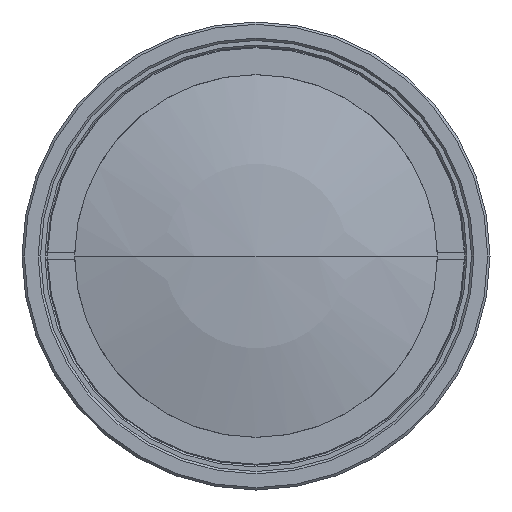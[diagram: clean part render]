
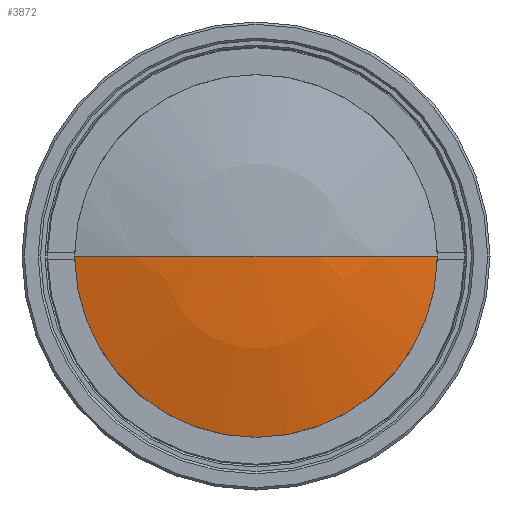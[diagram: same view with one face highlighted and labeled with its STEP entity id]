
A CAD part, left-side view. The second image highlights one B-rep face of the part: STEP entity #3872.
In plain terms, the highlighted spherical face has radius 89.618 mm.
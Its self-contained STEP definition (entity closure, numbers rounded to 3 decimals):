
#1597=CARTESIAN_POINT('',(-74.356,0.,0.));
#1598=DIRECTION('',(-1.,0.,0.));
#1599=DIRECTION('',(0.,1.,0.));
#1600=AXIS2_PLACEMENT_3D('',#1597,#1598,#1599);
#1607=CARTESIAN_POINT('',(12.147,0.,0.));
#1608=DIRECTION('',(0.,0.,-1.));
#1609=DIRECTION('',(-0.965,-0.261,0.));
#1610=AXIS2_PLACEMENT_3D('',#1607,#1608,#1609);
#1612=CARTESIAN_POINT('',(12.147,0.,0.));
#1613=DIRECTION('',(0.,0.,1.));
#1614=DIRECTION('',(-0.965,0.261,0.));
#1615=AXIS2_PLACEMENT_3D('',#1612,#1613,#1614);
#1931=CARTESIAN_POINT('',(-74.356,23.423,0.));
#1932=CARTESIAN_POINT('',(-74.356,-23.423,0.));
#1933=VERTEX_POINT('',#1931);
#1934=VERTEX_POINT('',#1932);
#1939=CARTESIAN_POINT('',(-77.471,0.,0.));
#1940=VERTEX_POINT('',#1939);
#3860=CARTESIAN_POINT('',(12.147,0.,0.));
#3861=DIRECTION('',(-1.,0.,0.));
#3862=DIRECTION('',(0.,1.,0.));
#3863=AXIS2_PLACEMENT_3D('',#3860,#3861,#3862);
#3864=SPHERICAL_SURFACE('',#3863,89.618);
#3865=ORIENTED_EDGE('',*,*,#3841,.F.);
#3867=ORIENTED_EDGE('',*,*,#3866,.T.);
#3869=ORIENTED_EDGE('',*,*,#3868,.F.);
#3870=EDGE_LOOP('',(#3865,#3867,#3869));
#3871=FACE_OUTER_BOUND('',#3870,.F.);
#1601=CIRCLE('',#1600,23.423);
#1611=CIRCLE('',#1610,89.618);
#1616=CIRCLE('',#1615,89.618);
#3841=EDGE_CURVE('',#1933,#1934,#1601,.T.);
#3866=EDGE_CURVE('',#1933,#1940,#1616,.T.);
#3868=EDGE_CURVE('',#1934,#1940,#1611,.T.);
#3872=ADVANCED_FACE('',(#3871),#3864,.T.);
